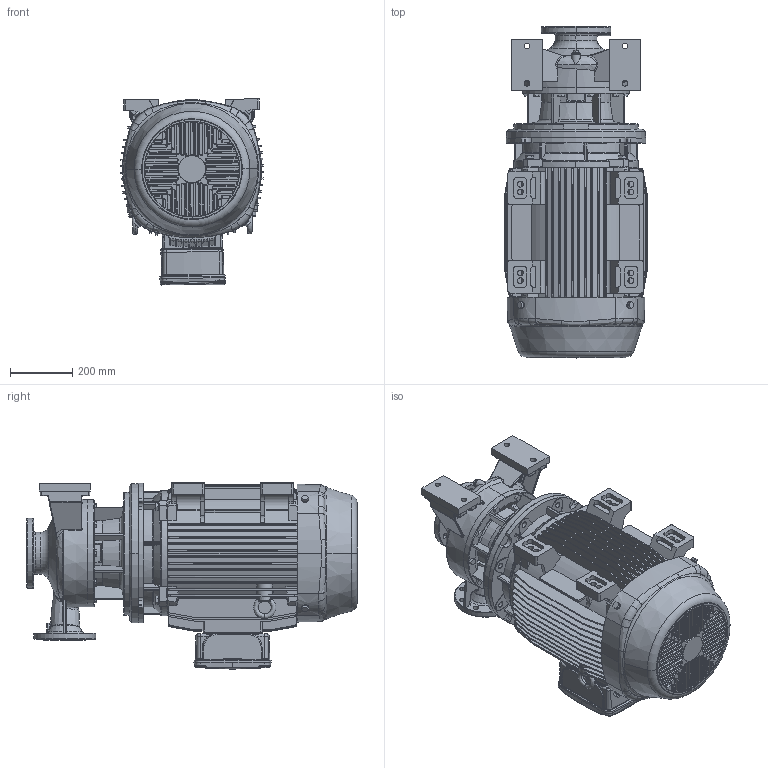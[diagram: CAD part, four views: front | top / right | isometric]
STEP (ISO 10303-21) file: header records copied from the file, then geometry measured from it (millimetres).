
FILE_DESCRIPTION (( 'STEP AP214' ), '1' );
FILE_NAME ('3LS 80-250_45.0_(225SM)_W21.STEP', '2026-04-29T06:35:25', ( '' ), ( '' ), 'SwSTEP 2.0', 'SolidWorks 2024', '' );
FILE_SCHEMA (( 'AUTOMOTIVE_DESIGN' ));
Length unit declared in the file: inch
Products named in the file (3): 80-250_45; 225S_M2P IE3_W21T_B35; 3LS 80-250_45.0_(225SM)_W21
Assembly tree (2 placements, depth 2):
  3LS 80-250_45.0_(225SM)_W21
    80-250_45
    225S_M2P IE3_W21T_B35
Bounding box: 459.87 x 1069.5 x 600.05 mm (x, y, z)
Volume: 128524869.8 mm3; surface area: 4554809.3 mm2
Topology: 6 solids, 19 shells, 3389 faces, 8840 edges, 5557 vertices
Faces by surface type: plane 1448, cylinder 909, bspline 384, cone 366, torus 247, sphere 35
Entity records: 142991 total; most frequent: CARTESIAN_POINT 63953, ORIENTED_EDGE 17608, DIRECTION 15352, EDGE_CURVE 8804, AXIS2_PLACEMENT_3D 5607, VERTEX_POINT 5553, LINE 4138, VECTOR 4138
